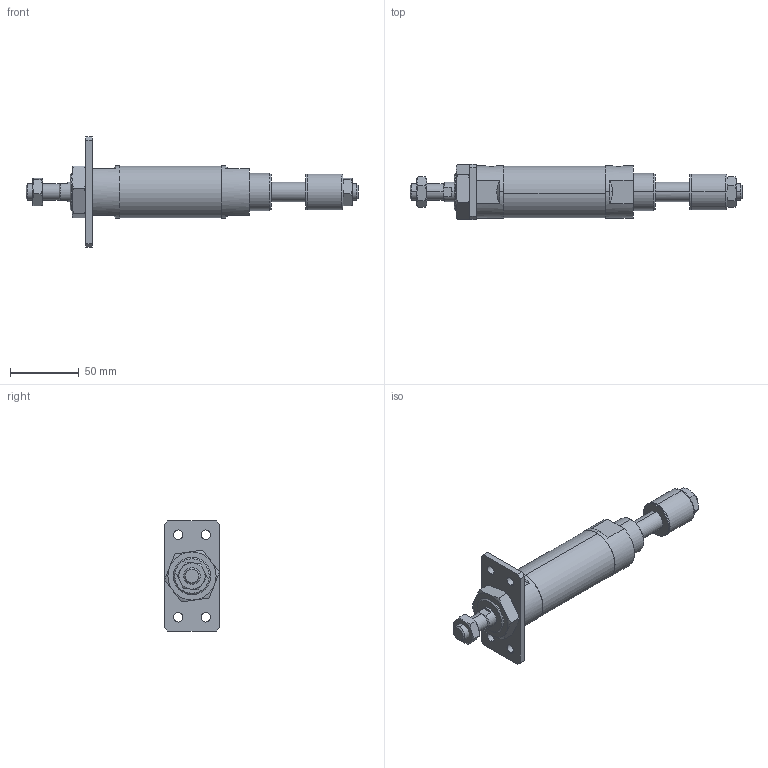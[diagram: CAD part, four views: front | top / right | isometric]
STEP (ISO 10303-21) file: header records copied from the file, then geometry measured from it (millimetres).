
FILE_DESCRIPTION (( 'STEP AP203' ), '1' );
FILE_NAME ('JGA7-32-25-A.STEP', '2016-04-20T01:57:01', ( '' ), ( '' ), 'SwSTEP 2.0', 'SolidWorks 2014', '' );
FILE_SCHEMA (( 'CONFIG_CONTROL_DESIGN' ));
Length unit declared in the file: millimetre
Products named in the file (8): 32-25; M27x2-10mm; JGA7-32-25-A; JGA7-32A-25; JGA7-32-Turn; J#2-32-A; M12x1.25-7mm; JGLH2-32B
Assembly tree (8 placements, depth 2):
  JGA7-32-25-A
    JGLH2-32B
    32-25
    JGA7-32A-25
    M12x1.25-7mm  x2
    M27x2-10mm
    J#2-32-A
    JGA7-32-Turn
Bounding box: 241 x 40.02 x 80 mm (x, y, z)
Volume: 184044.6 mm3; surface area: 44037.2 mm2
Topology: 8 solids, 8 shells, 169 faces, 378 edges, 230 vertices
Faces by surface type: plane 61, cylinder 48, torus 38, cone 22
Entity records: 5484 total; most frequent: CARTESIAN_POINT 1336, DIRECTION 716, ORIENTED_EDGE 652, EDGE_CURVE 326, AXIS2_PLACEMENT_3D 298, VERTEX_POINT 202, EDGE_LOOP 172, FACE_OUTER_BOUND 147
